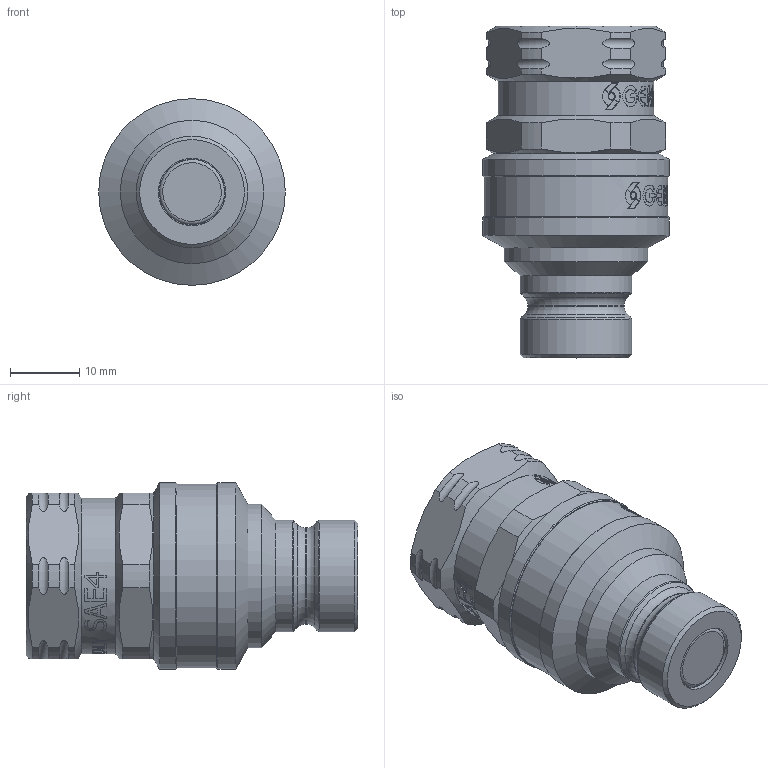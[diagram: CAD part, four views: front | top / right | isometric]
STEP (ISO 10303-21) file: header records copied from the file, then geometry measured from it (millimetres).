
FILE_DESCRIPTION(/* description */ (''),/* implementation_level */ '2;1');
FILE_NAME(/* name */ 'NC05S010000.stp',/* time_stamp */ '2024-11-19T11:06:51+01:00',/* author */ ('thomas.belotti'),/* organization */ (''),/* preprocessor_version */ 'ST-DEVELOPER v20',/* originating_system */ 'Autodesk Inventor 2024',/* authorisation */ '');
FILE_SCHEMA (('AUTOMOTIVE_DESIGN { 1 0 10303 214 3 1 1 }'));
Length unit declared in the file: millimetre
Products named in the file (1): Parte11
Bounding box: 27 x 48 x 27 mm (x, y, z)
Volume: 18223.1 mm3; surface area: 5165.6 mm2
Topology: 1 solids, 2 shells, 1126 faces, 3209 edges, 2130 vertices
Faces by surface type: bspline 733, plane 268, cylinder 91, torus 18, cone 16
Full cylindrical faces by diameter (mm): 9.7 x1, 9.88 x1, 10 x1, 13.95 x1, 16.15 x2, 20.75 x1, 22 x1, 22.3 x1, 22.5 x1, 26.5 x1, 27 x2
Entity records: 49186 total; most frequent: CARTESIAN_POINT 23544, ORIENTED_EDGE 6418, EDGE_CURVE 3209, DIRECTION 2839, VERTEX_POINT 2130, B_SPLINE_CURVE_WITH_KNOTS 1536, LINE 1247, VECTOR 1247
